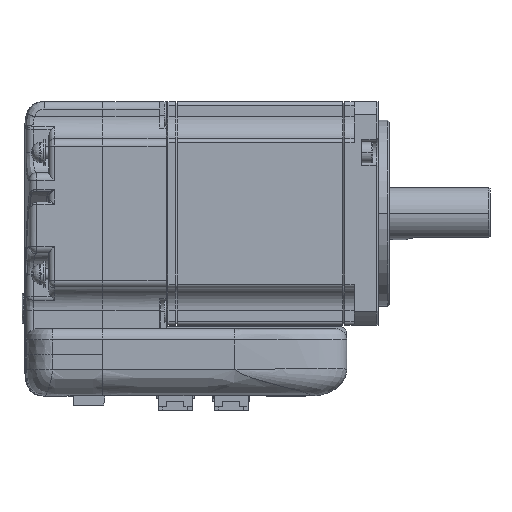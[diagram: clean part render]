
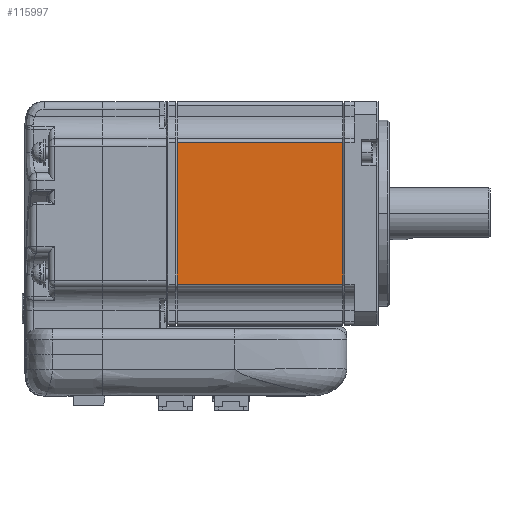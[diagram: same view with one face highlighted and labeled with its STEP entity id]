
A CAD part, top view. The second image highlights one B-rep face of the part: STEP entity #115997.
In plain terms, the highlighted planar face has unit normal (0, 0, 1) as drawn and (1, 0, 0) by its records, which use the part's own axes.
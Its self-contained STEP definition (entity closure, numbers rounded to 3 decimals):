
#113610=DIRECTION('',(0.,0.,1.));
#113611=VECTOR('',#113610,44.5);
#113612=CARTESIAN_POINT('',(22.128,-9.16,30.25));
#113613=LINE('',#113612,#113611);
#113625=DIRECTION('',(0.,-1.,0.));
#113626=VECTOR('',#113625,38.);
#113627=CARTESIAN_POINT('',(22.128,28.84,30.25));
#113628=LINE('',#113627,#113626);
#114069=DIRECTION('',(0.,-1.,0.));
#114070=VECTOR('',#114069,38.);
#114071=CARTESIAN_POINT('',(22.128,28.84,74.75));
#114072=LINE('',#114071,#114070);
#114076=DIRECTION('',(0.,0.,-1.));
#114077=VECTOR('',#114076,44.5);
#114078=CARTESIAN_POINT('',(22.128,28.84,74.75));
#114079=LINE('',#114078,#114077);
#115429=CARTESIAN_POINT('',(22.128,-9.16,30.25));
#115430=CARTESIAN_POINT('',(22.128,-9.16,74.75));
#115431=VERTEX_POINT('',#115429);
#115432=VERTEX_POINT('',#115430);
#115589=CARTESIAN_POINT('',(22.128,28.84,74.75));
#115590=VERTEX_POINT('',#115589);
#115599=CARTESIAN_POINT('',(22.128,28.84,30.25));
#115600=VERTEX_POINT('',#115599);
#115985=CARTESIAN_POINT('',(22.128,28.84,74.75));
#115986=DIRECTION('',(-1.,0.,0.));
#115987=DIRECTION('',(0.,0.,1.));
#115988=AXIS2_PLACEMENT_3D('',#115985,#115986,#115987);
#115989=PLANE('',#115988);
#115990=ORIENTED_EDGE('',*,*,#115859,.T.);
#115991=ORIENTED_EDGE('',*,*,#115841,.T.);
#115992=ORIENTED_EDGE('',*,*,#115784,.F.);
#115994=ORIENTED_EDGE('',*,*,#115993,.T.);
#115995=EDGE_LOOP('',(#115990,#115991,#115992,#115994));
#115996=FACE_OUTER_BOUND('',#115995,.F.);
#115997=ADVANCED_FACE('',(#115996),#115989,.F.);
#115784=EDGE_CURVE('',#115590,#115432,#114072,.T.);
#115841=EDGE_CURVE('',#115431,#115432,#113613,.T.);
#115859=EDGE_CURVE('',#115600,#115431,#113628,.T.);
#115993=EDGE_CURVE('',#115590,#115600,#114079,.T.);
